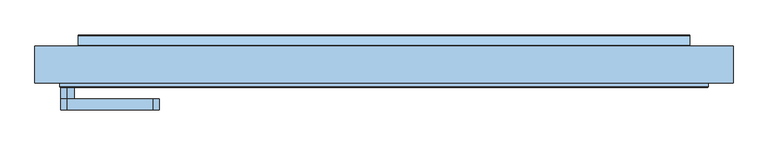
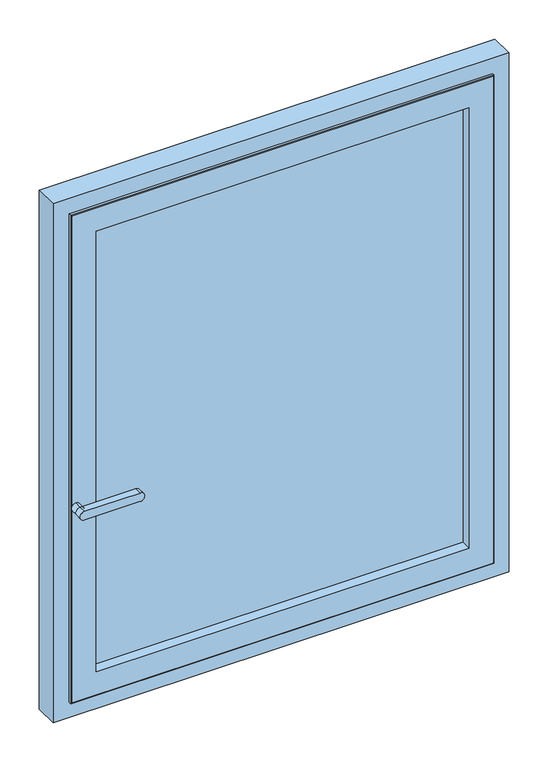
"""IFC4 building model written with IfcOpenShell, lengths in millimetres: window geometry, 900.04.004 : 900.04.004."""

from ifc_helpers import new_model, si_unit, point, frame, frame_2d, origin, place, context, project, spatial, polyline, circle_curve, ellipse_curve, trimmed, segment, composite_curve, outline, extrude, faceted_brep, source, transform, mapped, element, save
from ifc_brep_helpers import plane_surface, cylinder_surface, advanced_brep


def window_d7b7a2f2(model_context):
    return source(origin(), model_context, "Body", "SolidModel", [
        advanced_brep(
        [(-557.5943766, -72.9958352, 1412.0), (-557.5943766, -72.9958352, 1388.0), (-407.5943766, -72.9958352, 1388.0), (-407.5943766, -72.9958352, 1412.0), (-557.5943766, -52.9958352, 1388.0), (-557.5943766, -52.9958352, 1412.0), (-407.5943766, -52.9958352, 1412.0), (-407.5943766, -52.9958352, 1388.0), (-557.5943766, -32.9958352, 1412.0), (-557.5943766, -32.9958352, 1388.0)],
        [
            (0, 1, circle_curve(frame((-557.5943766, -72.9958352, 1400.0), z_axis=(0.0, -1.0, 0.0), x_axis=(0.0, 0.0, -1.0)), 12.0)),
            (1, 2),
            (2, 3, circle_curve(frame((-407.5943766, -72.9958352, 1400.0), z_axis=(0.0, -1.0, 0.0), x_axis=(0.0, 0.0, -1.0)), 12.0)),
            (3, 0),
            (4, 5, circle_curve(frame((-557.5943766, -52.9958352, 1400.0), z_axis=(0.0, -1.0, 0.0), x_axis=(0.0, 0.0, -1.0)), 12.0)),
            (5, 6),
            (6, 7, circle_curve(frame((-407.5943766, -52.9958352, 1400.0), z_axis=(0.0, 1.0, 0.0), x_axis=(0.0, 0.0, -1.0)), 12.0)),
            (7, 4),
            (3, 6),
            (5, 0),
            (2, 7),
            (1, 4),
            (5, 4, circle_curve(frame((-557.5943766, -52.9958352, 1400.0), z_axis=(0.0, -1.0, 0.0), x_axis=(0.0, 0.0, -1.0)), 12.0)),
            (8, 9, circle_curve(frame((-557.5943766, -32.9958352, 1400.0), z_axis=(0.0, 1.0, 0.0), x_axis=(0.0, 0.0, -1.0)), 12.0)),
            (9, 8, circle_curve(frame((-557.5943766, -32.9958352, 1400.0), z_axis=(0.0, 1.0, 0.0), x_axis=(0.0, 0.0, -1.0)), 12.0)),
            (8, 5),
            (4, 9),
        ],
        [
            plane_surface(frame((-557.5943766, -72.9958352, 1412.0), z_axis=(0.0, -1.0, 0.0), x_axis=(1.0, 0.0, 0.0))),
            plane_surface(frame((-557.5943766, -52.9958352, 1412.0), z_axis=(0.0, 1.0, 0.0), x_axis=(-1.0, 0.0, 0.0))),
            plane_surface(frame((-557.5943766, -72.9958352, 1412.0), z_axis=(0.0, 0.0, 1.0), x_axis=(0.0, 1.0, 0.0))),
            cylinder_surface(frame((-407.5943766, -52.9958352, 1400.0), z_axis=(0.0, -1.0, 0.0), x_axis=(0.0, 0.0, -1.0)), 12.0),
            plane_surface(frame((-407.5943766, -72.9958352, 1388.0), z_axis=(0.0, 0.0, -1.0), x_axis=(0.0, 1.0, 0.0))),
            cylinder_surface(frame((-557.5943766, -52.9958352, 1400.0), z_axis=(0.0, -1.0, 0.0), x_axis=(0.0, 0.0, -1.0)), 12.0),
            plane_surface(frame((-557.5943766, -32.9958352, 1388.0), z_axis=(0.0, 1.0, 0.0), x_axis=(1.0, 0.0, 0.0))),
            cylinder_surface(frame((-557.5943766, -32.9958352, 1400.0), z_axis=(0.0, -1.0, 0.0), x_axis=(0.0, 0.0, -1.0)), 12.0),
        ],
        [
            (0, [[1, 2, 3, 4]]),
            (1, [[5, 6, 7, 8]]),
            (2, [[9, -6, 10, -4]]),
            (3, [[11, -7, -9, -3]]),
            (4, [[12, -8, -11, -2]]),
            (5, [[-10, 13, -12, -1]]),
            (6, [[14, 15]]),
            (7, [[16, -5, 17, -14]]),
            (7, [[-17, -13, -16, -15]]),
        ],
    ),
        extrude(outline(polyline([(517.9945196, -4.9941954), (-517.9945196, -4.9941954), (-517.9945196, 33.0057223), (517.9945196, 33.0057223), (517.9945196, -4.9941954)])), frame((0.0, 0.0, 897.0054804), z_axis=(0.0, 0.0, 1.0), x_axis=(1.0, 0.0, 0.0)), (0.0, 0.0, 1.0), 1285.9890391),
        advanced_brep(
        [(-538.5166787, 34.4995349, 2203.5166787), (-538.5166787, 39.2031436, 2203.5166787), (-538.5166787, 39.2031436, 876.4833213), (-538.5166787, 34.4995349, 876.4833213), (-537.7166787, 40.0031436, 2202.7166787), (-537.7166787, 40.0031436, 877.2833213), (538.5166787, 39.2031436, 876.4833213), (538.5166787, 34.4995349, 876.4833213), (-553.9942671, 34.4995349, 2218.9942671), (553.9942671, 34.4995349, 2218.9942671), (553.9942671, 34.4995349, 861.0057329), (-553.9942671, 34.4995349, 861.0057329), (538.5166787, 34.4995349, 2203.5166787), (-553.9942671, -25.0, 2218.9942671), (-553.9942671, -25.0, 861.0057329), (553.9942671, -25.0, 861.0057329), (-571.4943766, -25.0, 2236.4943766), (571.4943766, -25.0, 2236.4943766), (571.4943766, -25.0, 843.5056234), (-571.4943766, -25.0, 843.5056234), (553.9942671, -25.0, 2218.9942671), (-571.4943766, -30.9958352, 2236.4943766), (-571.4943766, -30.9958352, 843.5056234), (571.4943766, -30.9958352, 843.5056234), (-569.4943766, -32.9958352, 2234.4943766), (-569.4943766, -32.9958352, 845.5056234), (569.4943766, -32.9958352, 845.5056234), (569.4943766, -32.9958352, 2234.4943766), (-502.9942611, -32.9958352, 2167.9942611), (502.9942611, -32.9958352, 2167.9942611), (502.9942611, -32.9958352, 912.0057389), (-502.9942611, -32.9958352, 912.0057389), (-502.9942611, -4.9941954, 2167.9942611), (-502.9942611, -4.9941954, 912.0057389), (502.9942611, -4.9941954, 912.0057389), (-517.9945196, -4.9941954, 2182.9945196), (517.9945196, -4.9941954, 2182.9945196), (517.9945196, -4.9941954, 897.0054804), (-517.9945196, -4.9941954, 897.0054804), (502.9942611, -4.9941954, 2167.9942611), (-517.9945196, 33.0057223, 2182.9945196), (-517.9945196, 33.0057223, 897.0054804), (517.9945196, 33.0057223, 897.0054804), (517.9945196, 33.0057223, 2182.9945196), (-502.9942611, 33.0057223, 2167.9942611), (502.9942611, 33.0057223, 2167.9942611), (502.9942611, 33.0057223, 912.0057389), (-502.9942611, 33.0057223, 912.0057389), (-502.9942611, 40.0031436, 2167.9942611), (-502.9942611, 40.0031436, 912.0057389), (502.9942611, 40.0031436, 912.0057389), (537.7166787, 40.0031436, 2202.7166787), (537.7166787, 40.0031436, 877.2833213), (502.9942611, 40.0031436, 2167.9942611), (538.5166787, 39.2031436, 2203.5166787), (571.4943766, -30.9958352, 2236.4943766)],
        [
            (0, 1),
            (1, 2),
            (2, 3),
            (3, 0),
            (1, 4, ellipse_curve(frame((-537.7166787, 39.2031436, 2202.7166787), z_axis=(-0.7071067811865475, 0.0, -0.7071067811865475), x_axis=(-0.7071067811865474, 0.0, 0.7071067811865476)), 1.1313708, 0.8)),
            (4, 5),
            (5, 2, ellipse_curve(frame((-537.7166787, 39.2031436, 877.2833213), z_axis=(-0.7071067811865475, 0.0, 0.7071067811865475), x_axis=(0.7071067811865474, 0.0, 0.7071067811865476)), 1.1313708, 0.8)),
            (2, 6),
            (6, 7),
            (7, 3),
            (8, 9),
            (9, 10),
            (10, 11),
            (11, 8),
            (7, 12),
            (12, 0),
            (13, 8),
            (11, 14),
            (14, 13),
            (10, 15),
            (15, 14),
            (16, 17),
            (17, 18),
            (18, 19),
            (19, 16),
            (15, 20),
            (20, 13),
            (21, 16),
            (19, 22),
            (22, 21),
            (18, 23),
            (23, 22),
            (24, 21, ellipse_curve(frame((-569.4943766, -30.9958352, 2234.4943766), z_axis=(-0.7071067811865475, 0.0, -0.7071067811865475), x_axis=(-0.7071067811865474, 0.0, 0.7071067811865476)), 2.8284271, 2.0)),
            (22, 25, ellipse_curve(frame((-569.4943766, -30.9958352, 845.5056234), z_axis=(-0.7071067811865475, 0.0, 0.7071067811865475), x_axis=(0.7071067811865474, 0.0, 0.7071067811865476)), 2.8284271, 2.0)),
            (25, 24),
            (23, 26, ellipse_curve(frame((569.4943766, -30.9958352, 845.5056234), z_axis=(-0.7071067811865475, 0.0, -0.7071067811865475), x_axis=(-0.7071067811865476, 0.0, 0.7071067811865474)), 2.8284271, 2.0)),
            (26, 25),
            (26, 27),
            (27, 24),
            (28, 29),
            (29, 30),
            (30, 31),
            (31, 28),
            (32, 28),
            (31, 33),
            (33, 32),
            (30, 34),
            (34, 33),
            (35, 36),
            (36, 37),
            (37, 38),
            (38, 35),
            (34, 39),
            (39, 32),
            (40, 35),
            (38, 41),
            (41, 40),
            (37, 42),
            (42, 41),
            (42, 43),
            (43, 40),
            (44, 45),
            (45, 46),
            (46, 47),
            (47, 44),
            (48, 44),
            (47, 49),
            (49, 48),
            (46, 50),
            (50, 49),
            (4, 51),
            (51, 52),
            (52, 5),
            (50, 53),
            (53, 48),
            (52, 6, ellipse_curve(frame((537.7166787, 39.2031436, 877.2833213), z_axis=(-0.7071067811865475, 0.0, -0.7071067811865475), x_axis=(-0.7071067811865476, 0.0, 0.7071067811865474)), 1.1313708, 0.8)),
            (6, 54),
            (54, 12),
            (9, 20),
            (17, 55),
            (55, 23),
            (55, 27, ellipse_curve(frame((569.4943766, -30.9958352, 2234.4943766), z_axis=(0.7071067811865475, 0.0, -0.7071067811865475), x_axis=(-0.7071067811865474, 0.0, -0.7071067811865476)), 2.8284271, 2.0)),
            (29, 39),
            (36, 43),
            (45, 53),
            (51, 54, ellipse_curve(frame((537.7166787, 39.2031436, 2202.7166787), z_axis=(0.7071067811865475, 0.0, -0.7071067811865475), x_axis=(-0.7071067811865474, 0.0, -0.7071067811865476)), 1.1313708, 0.8)),
            (54, 1),
            (21, 55),
        ],
        [
            plane_surface(frame((-538.5166787, 39.2031436, 2203.5166787), z_axis=(-1.0, 0.0, 0.0), x_axis=(0.0, 0.0, -1.0))),
            cylinder_surface(frame((-537.7166787, 39.2031436, 2280.0), z_axis=(0.0, 0.0, 1.0), x_axis=(0.0, 1.0, 0.0)), 0.8),
            plane_surface(frame((-538.5166787, 39.2031436, 876.4833213), z_axis=(0.0, 0.0, -1.0), x_axis=(1.0, 0.0, 0.0))),
            plane_surface(frame((538.5166787, 34.4995349, 2203.5166787), z_axis=(0.0, 1.0, 0.0), x_axis=(-1.0, 0.0, 0.0))),
            plane_surface(frame((-553.9942671, 34.4995349, 2218.9942671), z_axis=(-1.0, 0.0, 0.0), x_axis=(0.0, 0.0, -1.0))),
            plane_surface(frame((-553.9942671, 34.4995349, 861.0057329), z_axis=(0.0, 0.0, -1.0), x_axis=(1.0, 0.0, 0.0))),
            plane_surface(frame((553.9942671, -25.0, 2218.9942671), z_axis=(0.0, 1.0, 0.0), x_axis=(-1.0, 0.0, 0.0))),
            plane_surface(frame((-571.4943766, -25.0, 2236.4943766), z_axis=(-1.0, 0.0, 0.0), x_axis=(0.0, 0.0, -1.0))),
            plane_surface(frame((-571.4943766, -25.0, 843.5056234), z_axis=(0.0, 0.0, -1.0), x_axis=(1.0, 0.0, 0.0))),
            cylinder_surface(frame((-569.4943766, -30.9958352, 2280.0), z_axis=(0.0, 0.0, 1.0), x_axis=(-1.0, 0.0, 0.0)), 2.0),
            cylinder_surface(frame((-615.0, -30.9958352, 845.5056234), z_axis=(-1.0, 0.0, 0.0), x_axis=(0.0, 0.0, -1.0)), 2.0),
            plane_surface(frame((569.4943766, -32.9958352, 2234.4943766), z_axis=(0.0, -1.0, 0.0), x_axis=(-1.0, 0.0, 0.0))),
            plane_surface(frame((-502.9942611, -32.9958352, 2167.9942611), z_axis=(1.0, 0.0, 0.0), x_axis=(0.0, 0.0, -1.0))),
            plane_surface(frame((-502.9942611, -32.9958352, 912.0057389), z_axis=(0.0, 0.0, 1.0), x_axis=(1.0, 0.0, 0.0))),
            plane_surface(frame((502.9942611, -4.9941954, 2167.9942611), z_axis=(0.0, 1.0, 0.0), x_axis=(-1.0, 0.0, 0.0))),
            plane_surface(frame((-517.9945196, -4.9941954, 2182.9945196), z_axis=(1.0, 0.0, 0.0), x_axis=(0.0, 0.0, -1.0))),
            plane_surface(frame((-517.9945196, -4.9941954, 897.0054804), z_axis=(0.0, 0.0, 1.0), x_axis=(1.0, 0.0, 0.0))),
            plane_surface(frame((517.9945196, 33.0057223, 2182.9945196), z_axis=(0.0, -1.0, 0.0), x_axis=(-1.0, 0.0, 0.0))),
            plane_surface(frame((-502.9942611, 33.0057223, 2167.9942611), z_axis=(1.0, 0.0, 0.0), x_axis=(0.0, 0.0, -1.0))),
            plane_surface(frame((-502.9942611, 33.0057223, 912.0057389), z_axis=(0.0, 0.0, 1.0), x_axis=(1.0, 0.0, 0.0))),
            plane_surface(frame((502.9942611, 40.0031436, 2167.9942611), z_axis=(0.0, 1.0, 0.0), x_axis=(-1.0, 0.0, 0.0))),
            cylinder_surface(frame((-615.0, 39.2031436, 877.2833213), z_axis=(-1.0, 0.0, 0.0), x_axis=(0.0, 1.0, 0.0)), 0.8),
            plane_surface(frame((538.5166787, 39.2031436, 876.4833213), z_axis=(1.0, 0.0, 0.0), x_axis=(0.0, 0.0, 1.0))),
            plane_surface(frame((553.9942671, 34.4995349, 861.0057329), z_axis=(1.0, 0.0, 0.0), x_axis=(0.0, 0.0, 1.0))),
            plane_surface(frame((571.4943766, -25.0, 843.5056234), z_axis=(1.0, 0.0, 0.0), x_axis=(0.0, 0.0, 1.0))),
            cylinder_surface(frame((569.4943766, -30.9958352, 800.0), z_axis=(0.0, 0.0, -1.0), x_axis=(1.0, 0.0, 0.0)), 2.0),
            plane_surface(frame((502.9942611, -32.9958352, 912.0057389), z_axis=(-1.0, 0.0, 0.0), x_axis=(0.0, 0.0, 1.0))),
            plane_surface(frame((517.9945196, -4.9941954, 897.0054804), z_axis=(-1.0, 0.0, 0.0), x_axis=(0.0, 0.0, 1.0))),
            plane_surface(frame((502.9942611, 33.0057223, 912.0057389), z_axis=(-1.0, 0.0, 0.0), x_axis=(0.0, 0.0, 1.0))),
            cylinder_surface(frame((537.7166787, 39.2031436, 800.0), z_axis=(0.0, 0.0, -1.0), x_axis=(0.0, 1.0, 0.0)), 0.8),
            plane_surface(frame((538.5166787, 39.2031436, 2203.5166787), z_axis=(0.0, 0.0, 1.0), x_axis=(-1.0, 0.0, 0.0))),
            plane_surface(frame((553.9942671, 34.4995349, 2218.9942671), z_axis=(0.0, 0.0, 1.0), x_axis=(-1.0, 0.0, 0.0))),
            plane_surface(frame((571.4943766, -25.0, 2236.4943766), z_axis=(0.0, 0.0, 1.0), x_axis=(-1.0, 0.0, 0.0))),
            cylinder_surface(frame((615.0, -30.9958352, 2234.4943766), z_axis=(1.0, 0.0, 0.0), x_axis=(0.0, 0.0, 1.0)), 2.0),
            plane_surface(frame((502.9942611, -32.9958352, 2167.9942611), z_axis=(0.0, 0.0, -1.0), x_axis=(-1.0, 0.0, 0.0))),
            plane_surface(frame((517.9945196, -4.9941954, 2182.9945196), z_axis=(0.0, 0.0, -1.0), x_axis=(-1.0, 0.0, 0.0))),
            plane_surface(frame((502.9942611, 33.0057223, 2167.9942611), z_axis=(0.0, 0.0, -1.0), x_axis=(-1.0, 0.0, 0.0))),
            cylinder_surface(frame((615.0, 39.2031436, 2202.7166787), z_axis=(1.0, 0.0, 0.0), x_axis=(0.0, 1.0, 0.0)), 0.8),
        ],
        [
            (0, [[1, 2, 3, 4]]),
            (1, [[5, 6, 7, -2]]),
            (2, [[-3, 8, 9, 10]]),
            (3, [[11, 12, 13, 14], [-10, 15, 16, -4]]),
            (4, [[17, -14, 18, 19]]),
            (5, [[-18, -13, 20, 21]]),
            (6, [[22, 23, 24, 25], [-21, 26, 27, -19]]),
            (7, [[28, -25, 29, 30]]),
            (8, [[-29, -24, 31, 32]]),
            (9, [[33, -30, 34, 35]]),
            (10, [[-34, -32, 36, 37]]),
            (11, [[-37, 38, 39, -35], [40, 41, 42, 43]]),
            (12, [[44, -43, 45, 46]]),
            (13, [[-45, -42, 47, 48]]),
            (14, [[49, 50, 51, 52], [-48, 53, 54, -46]]),
            (15, [[55, -52, 56, 57]]),
            (16, [[-56, -51, 58, 59]]),
            (17, [[-59, 60, 61, -57], [62, 63, 64, 65]]),
            (18, [[66, -65, 67, 68]]),
            (19, [[-67, -64, 69, 70]]),
            (20, [[71, 72, 73, -6], [-70, 74, 75, -68]]),
            (21, [[-7, -73, 76, -8]]),
            (22, [[-9, 77, 78, -15]]),
            (23, [[-20, -12, 79, -26]]),
            (24, [[-31, -23, 80, 81]]),
            (25, [[-36, -81, 82, -38]]),
            (26, [[-47, -41, 83, -53]]),
            (27, [[-58, -50, 84, -60]]),
            (28, [[-69, -63, 85, -74]]),
            (29, [[-76, -72, 86, -77]]),
            (30, [[-78, 87, -1, -16]]),
            (31, [[-79, -11, -17, -27]]),
            (32, [[-80, -22, -28, 88]]),
            (33, [[-82, -88, -33, -39]]),
            (34, [[-83, -40, -44, -54]]),
            (35, [[-84, -49, -55, -61]]),
            (36, [[-85, -62, -66, -75]]),
            (37, [[-86, -71, -5, -87]]),
        ],
    ),
        extrude(outline(composite_curve([segment(trimmed(circle_curve(frame_2d((55.4161083, 876.9332661)), 3.1661269), [point((58.5501008, 876.4833213))], [point((57.4031439, 879.3982304))], True, "CARTESIAN"), True, "CONTINUOUS"), segment(polyline([(57.4031439, 879.3982304), (45.40315, 886.3264841), (41.4031376, 879.3981323), (41.4135562, 876.4833213), (40.0031436, 876.4833213), (40.0031436, 890.4833373), (41.0031746, 890.4833373), (58.0031136, 880.6683953)]), True, "CONTINUOUS"), segment(trimmed(circle_curve(frame_2d((55.7110624, 877.0254426)), 4.3040217), [point((58.0031136, 880.6683953))], [point((59.9808056, 876.4833213))], False, "CARTESIAN"), True, "CONTINUOUS"), segment(polyline([(59.9808056, 876.4833213), (58.5501008, 876.4833213)]), True, "CONTINUOUS")], self_intersect=False)), frame((-538.5273334, 0.0, 0.0), z_axis=(1.0, 0.0, 0.0), x_axis=(0.0, 1.0, 0.0)), (0.0, 0.0, 1.0), 1077.0546669),
        faceted_brep([(-543.5000448, 40.0601119, 2208.5000448), (-543.5000448, 35.4974884, 2208.5000448), (-543.5000448, 35.4974884, 871.4999552), (-543.5000448, 40.0601119, 871.4999552), (-565.499939, 35.4974884, 849.500061), (565.499939, 35.4974884, 849.500061), (565.499939, 35.4974884, 2230.499939), (-565.499939, 35.4974884, 2230.499939), (543.5000448, 35.4974884, 2208.5000448), (543.5000448, 35.4974884, 871.4999552), (543.5000448, 40.0601119, 871.4999552), (-615.0, 40.0601119, 2280.0), (615.0, 40.0601119, 2280.0), (615.0, 40.0601119, 800.0), (-615.0, 40.0601119, 800.0), (543.5000448, 40.0601119, 2208.5000448), (-615.0, -25.0, 2280.0), (-615.0, -25.0, 800.0), (615.0, -25.0, 800.0), (615.0, -25.0, 2280.0), (-565.499939, -25.0, 2230.499939), (565.499939, -25.0, 2230.499939), (565.499939, -25.0, 849.500061), (-565.499939, -25.0, 849.500061)], [[[0, 1, 2, 3]], [[4, 5, 6, 7], [1, 8, 9, 2]], [[3, 2, 9, 10]], [[11, 12, 13, 14], [3, 10, 15, 0]], [[16, 11, 14, 17]], [[17, 14, 13, 18]], [[17, 18, 19, 16], [20, 21, 22, 23]], [[7, 20, 23, 4]], [[4, 23, 22, 5]], [[10, 9, 8, 15]], [[18, 13, 12, 19]], [[5, 22, 21, 6]], [[15, 8, 1, 0]], [[19, 12, 11, 16]], [[6, 21, 20, 7]]]),
    ])


if __name__ == "__main__":
    model = new_model("IFC4")
    model_context = context("Model", 3, world=origin())
    ifc_project = project(units=[si_unit("LENGTHUNIT", "METRE", prefix="MILLI")], contexts=[model_context])
    site = spatial("IfcSite", under=ifc_project)
    building = spatial("IfcBuilding", under=site)
    placement = place(None, origin())
    window_shape = window_d7b7a2f2(model_context)
    element("IfcWindow", 1, ObjectType="900.04.004 : 900.04.004", at=placement, inside=building, context=model_context, shape_type="MappedRepresentation", body=[
        mapped(window_shape, transform((0.0, 0.0, 0.0), x_axis=(1.0, 0.0, 0.0), y_axis=(0.0, 1.0, 0.0), z_axis=(0.0, 0.0, 1.0))),
    ])
    save(model, "model.ifc")
